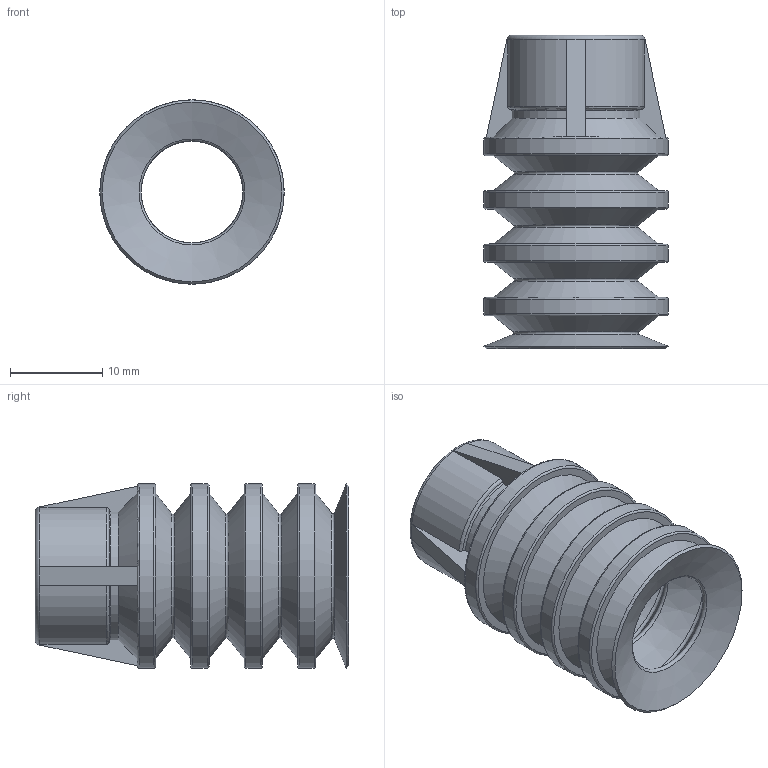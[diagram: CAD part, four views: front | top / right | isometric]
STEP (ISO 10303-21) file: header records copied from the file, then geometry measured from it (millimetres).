
FILE_DESCRIPTION(('STEP AP203'),'1');
FILE_NAME('HGL-20.stp','2025-02-19T01:57:19',(' '),(' '),'Spatial InterOp 3D',' ',' ');
FILE_SCHEMA(('CONFIG_CONTROL_DESIGN'));
Length unit declared in the file: millimetre
Products named in the file (1): 1
Bounding box: 20 x 34 x 20 mm (x, y, z)
Volume: 2467.7 mm3; surface area: 5142.4 mm2
Topology: 1 solids, 1 shells, 103 faces, 222 edges, 130 vertices
Faces by surface type: torus 35, plane 31, cone 22, cylinder 15
Full cylindrical faces by diameter (mm): 11 x2, 13 x1, 20 x4
Entity records: 2634 total; most frequent: CARTESIAN_POINT 540, DIRECTION 448, ORIENTED_EDGE 340, AXIS2_PLACEMENT_3D 198, EDGE_CURVE 170, EDGE_LOOP 166, FACE_OUTER_BOUND 137, VERTEX_POINT 130
